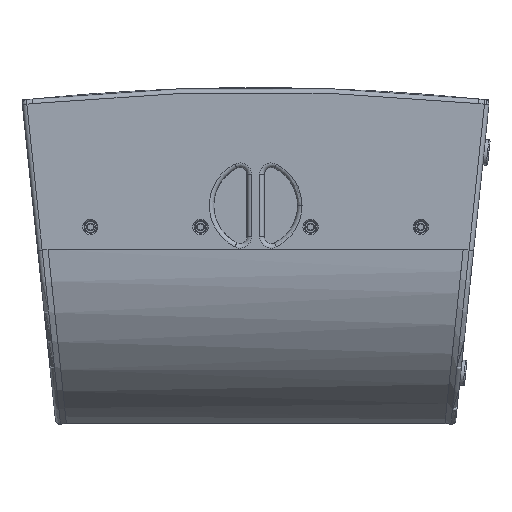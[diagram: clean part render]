
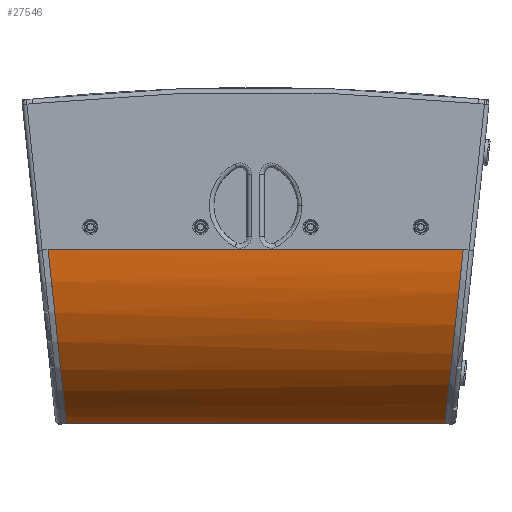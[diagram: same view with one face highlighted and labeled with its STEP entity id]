
A CAD part, left-side view. The second image highlights one B-rep face of the part: STEP entity #27546.
In plain terms, the highlighted cylindrical face has radius 272.902 mm (diameter 545.805 mm), a partial arc.
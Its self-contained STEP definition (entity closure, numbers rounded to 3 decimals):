
#6922 = VERTEX_POINT ( 'NONE', #22980 ) ;
#6924 = EDGE_CURVE ( 'NONE', #6925, #6922, #22982, .T. ) ;
#6925 = VERTEX_POINT ( 'NONE', #22972 ) ;
#6927 = EDGE_CURVE ( 'NONE', #6928, #6925, #22970, .T. ) ;
#6928 = VERTEX_POINT ( 'NONE', #22969 ) ;
#16288 = VERTEX_POINT ( 'NONE', #25956 ) ;
#18858 = VERTEX_POINT ( 'NONE', #26476 ) ;
#19821 = VERTEX_POINT ( 'NONE', #26468 ) ;
#21276 = EDGE_CURVE ( 'NONE', #21488, #6922, #26486, .T. ) ;
#21488 = VERTEX_POINT ( 'NONE', #26535 ) ;
#22097 = VERTEX_POINT ( 'NONE', #26523 ) ;
#22956 = EDGE_CURVE ( 'NONE', #18858, #16288, #26618, .T. ) ;
#22969 = CARTESIAN_POINT ( 'NONE',  ( 0., 232.192, 37.672 ) ) ;
#22970 = B_SPLINE_CURVE_WITH_KNOTS ( 'NONE', 3,
 ( #23035, #23034, #23033, #23032 ),
 .UNSPECIFIED., .F., .F.,
 ( 4, 4 ),
 ( 1., 1. ),
 .UNSPECIFIED. ) ;
#22972 = CARTESIAN_POINT ( 'NONE',  ( 0., 232.176, 37.671 ) ) ;
#22973 = DIRECTION ( 'NONE',  ( 0., 0., 1. ) ) ;
#22974 = VECTOR ( 'NONE', #22973, 1000. ) ;
#22975 = CARTESIAN_POINT ( 'NONE',  ( 0., 232.176, 0. ) ) ;
#22980 = CARTESIAN_POINT ( 'NONE',  ( 0., 232.176, 633.026 ) ) ;
#22982 = LINE ( 'NONE', #22975, #22974 ) ;
#23032 = CARTESIAN_POINT ( 'NONE',  ( 0., 232.176, 37.671 ) ) ;
#23033 = CARTESIAN_POINT ( 'NONE',  ( 0., 232.182, 37.671 ) ) ;
#23034 = CARTESIAN_POINT ( 'NONE',  ( 0., 232.187, 37.672 ) ) ;
#23035 = CARTESIAN_POINT ( 'NONE',  ( 0., 232.192, 37.672 ) ) ;
#23120 = EDGE_CURVE ( 'NONE', #21488, #18858, #26662, .T. ) ;
#23681 = VERTEX_POINT ( 'NONE', #26645 ) ;
#25402 = EDGE_CURVE ( 'NONE', #16288, #23681, #26641, .T. ) ;
#25956 = CARTESIAN_POINT ( 'NONE',  ( 166., 481.888, 606.781 ) ) ;
#26468 = CARTESIAN_POINT ( 'NONE',  ( 151.954, 475.432, 63.238 ) ) ;
#26476 = CARTESIAN_POINT ( 'NONE',  ( 35.33, 365.094, 619.056 ) ) ;
#26486 = B_SPLINE_CURVE_WITH_KNOTS ( 'NONE', 3,
 ( #26543, #26542, #26541, #26540 ),
 .UNSPECIFIED., .F., .F.,
 ( 4, 4 ),
 ( 0., 1. ),
 .UNSPECIFIED. ) ;
#26523 = CARTESIAN_POINT ( 'NONE',  ( 45.501, 381.678, 53.384 ) ) ;
#26535 = CARTESIAN_POINT ( 'NONE',  ( 0., 232.219, 633.022 ) ) ;
#26540 = CARTESIAN_POINT ( 'NONE',  ( 0., 232.176, 633.026 ) ) ;
#26541 = CARTESIAN_POINT ( 'NONE',  ( 0., 232.191, 633.025 ) ) ;
#26542 = CARTESIAN_POINT ( 'NONE',  ( 0., 232.205, 633.023 ) ) ;
#26543 = CARTESIAN_POINT ( 'NONE',  ( 0., 232.219, 633.022 ) ) ;
#26614 = CARTESIAN_POINT ( 'NONE',  ( 166., 481.888, 606.781 ) ) ;
#26615 = CARTESIAN_POINT ( 'NONE',  ( 110.282, 458.167, 609.274 ) ) ;
#26616 = CARTESIAN_POINT ( 'NONE',  ( 65.131, 417.811, 613.515 ) ) ;
#26617 = CARTESIAN_POINT ( 'NONE',  ( 35.33, 365.094, 619.056 ) ) ;
#26618 =( BOUNDED_CURVE ( )  B_SPLINE_CURVE ( 3, ( #26617, #26616, #26615, #26614 ),
 .UNSPECIFIED., .F., .T. ) 
 B_SPLINE_CURVE_WITH_KNOTS ( ( 4, 4 ),
 ( 2.085, 2.739 ),
 .UNSPECIFIED. ) 
 CURVE ( )  GEOMETRIC_REPRESENTATION_ITEM ( )  RATIONAL_B_SPLINE_CURVE ( ( 1., 0.965, 0.965, 1. ) ) 
 REPRESENTATION_ITEM ( '' )  );
#26638 = DIRECTION ( 'NONE',  ( 0., 0., -1. ) ) ;
#26639 = VECTOR ( 'NONE', #26638, 1000. ) ;
#26640 = CARTESIAN_POINT ( 'NONE',  ( 166., 481.888, 0. ) ) ;
#26641 = LINE ( 'NONE', #26640, #26639 ) ;
#26645 = CARTESIAN_POINT ( 'NONE',  ( 166., 481.888, 63.916 ) ) ;
#26658 = CARTESIAN_POINT ( 'NONE',  ( 35.33, 365.094, 619.056 ) ) ;
#26659 = CARTESIAN_POINT ( 'NONE',  ( 12.28, 324.321, 623.342 ) ) ;
#26660 = CARTESIAN_POINT ( 'NONE',  ( 0.245, 279.056, 628.099 ) ) ;
#26661 = CARTESIAN_POINT ( 'NONE',  ( 0., 232.219, 633.022 ) ) ;
#26662 =( BOUNDED_CURVE ( )  B_SPLINE_CURVE ( 3, ( #26661, #26660, #26659, #26658 ),
 .UNSPECIFIED., .F., .F. ) 
 B_SPLINE_CURVE_WITH_KNOTS ( ( 4, 4 ),
 ( 1.576, 2.085 ),
 .UNSPECIFIED. ) 
 CURVE ( )  GEOMETRIC_REPRESENTATION_ITEM ( )  RATIONAL_B_SPLINE_CURVE ( ( 1., 0.979, 0.979, 1. ) ) 
 REPRESENTATION_ITEM ( '' )  );
#26665 = CARTESIAN_POINT ( 'NONE',  ( 45.501, 381.678, 53.384 ) ) ;
#26666 = CARTESIAN_POINT ( 'NONE',  ( 72.257, 422.001, 57.622 ) ) ;
#26667 = CARTESIAN_POINT ( 'NONE',  ( 108.573, 453.986, 60.984 ) ) ;
#26668 = CARTESIAN_POINT ( 'NONE',  ( 151.954, 475.432, 63.238 ) ) ;
#26669 =( BOUNDED_CURVE ( )  B_SPLINE_CURVE ( 3, ( #26668, #26667, #26666, #26665 ),
 .UNSPECIFIED., .F., .T. ) 
 B_SPLINE_CURVE_WITH_KNOTS ( ( 4, 4 ),
 ( 0.459, 0.985 ),
 .UNSPECIFIED. ) 
 CURVE ( )  GEOMETRIC_REPRESENTATION_ITEM ( )  RATIONAL_B_SPLINE_CURVE ( ( 1., 0.977, 0.977, 1. ) ) 
 REPRESENTATION_ITEM ( '' )  );
#26683 = EDGE_CURVE ( 'NONE', #19821, #22097, #26669, .T. ) ;
#26689 = DIRECTION ( 'NONE',  ( 1., 0., 0. ) ) ;
#26690 = DIRECTION ( 'NONE',  ( 0., 0., 1. ) ) ;
#26691 = CARTESIAN_POINT ( 'NONE',  ( 272.899, 230.794, 0. ) ) ;
#26692 = AXIS2_PLACEMENT_3D ( 'NONE', #26691, #26690, #26689 ) ;
#26693 = CARTESIAN_POINT ( 'NONE',  ( 151.954, 475.432, 63.238 ) ) ;
#26694 = CARTESIAN_POINT ( 'NONE',  ( 156.574, 477.717, 63.478 ) ) ;
#26695 = CARTESIAN_POINT ( 'NONE',  ( 161.258, 479.869, 63.704 ) ) ;
#26696 = CARTESIAN_POINT ( 'NONE',  ( 166., 481.888, 63.916 ) ) ;
#26698 =( BOUNDED_CURVE ( )  B_SPLINE_CURVE ( 3, ( #26696, #26695, #26694, #26693 ),
 .UNSPECIFIED., .F., .T. ) 
 B_SPLINE_CURVE_WITH_KNOTS ( ( 4, 4 ),
 ( 0.402, 0.459 ),
 .UNSPECIFIED. ) 
 CURVE ( )  GEOMETRIC_REPRESENTATION_ITEM ( )  RATIONAL_B_SPLINE_CURVE ( ( 1., 1., 1., 1. ) ) 
 REPRESENTATION_ITEM ( '' )  );
#26699 = CYLINDRICAL_SURFACE ( 'NONE', #26692, 272.902 ) ;
#26700 = FACE_OUTER_BOUND ( 'NONE', #27545, .T. ) ;
#26724 = CARTESIAN_POINT ( 'NONE',  ( 0., 232.192, 37.672 ) ) ;
#26725 = CARTESIAN_POINT ( 'NONE',  ( 0.275, 285.772, 43.304 ) ) ;
#26726 = CARTESIAN_POINT ( 'NONE',  ( 15.877, 337.031, 48.691 ) ) ;
#26727 = CARTESIAN_POINT ( 'NONE',  ( 45.501, 381.678, 53.384 ) ) ;
#26728 =( BOUNDED_CURVE ( )  B_SPLINE_CURVE ( 3, ( #26727, #26726, #26725, #26724 ),
 .UNSPECIFIED., .F., .F. ) 
 B_SPLINE_CURVE_WITH_KNOTS ( ( 4, 4 ),
 ( 0.985, 1.566 ),
 .UNSPECIFIED. ) 
 CURVE ( )  GEOMETRIC_REPRESENTATION_ITEM ( )  RATIONAL_B_SPLINE_CURVE ( ( 1., 0.972, 0.972, 1. ) ) 
 REPRESENTATION_ITEM ( '' )  );
#27017 = ORIENTED_EDGE ( 'NONE', *, *, #23120, .T. ) ;
#27048 = EDGE_CURVE ( 'NONE', #23681, #19821, #26698, .T. ) ;
#27088 = ORIENTED_EDGE ( 'NONE', *, *, #25402, .T. ) ;
#27174 = ORIENTED_EDGE ( 'NONE', *, *, #22956, .T. ) ;
#27260 = ORIENTED_EDGE ( 'NONE', *, *, #21276, .F. ) ;
#27375 = ORIENTED_EDGE ( 'NONE', *, *, #6927, .T. ) ;
#27418 = ORIENTED_EDGE ( 'NONE', *, *, #6924, .T. ) ;
#27545 = EDGE_LOOP ( 'NONE', ( #27375, #27418, #27260, #27017, #27174, #27088, #27562, #27561, #27560 ) ) ;
#27546 = ADVANCED_FACE ( 'NONE', ( #26700 ), #26699, .T. ) ;
#27552 = EDGE_CURVE ( 'NONE', #22097, #6928, #26728, .T. ) ;
#27560 = ORIENTED_EDGE ( 'NONE', *, *, #27552, .T. ) ;
#27561 = ORIENTED_EDGE ( 'NONE', *, *, #26683, .T. ) ;
#27562 = ORIENTED_EDGE ( 'NONE', *, *, #27048, .T. ) ;
